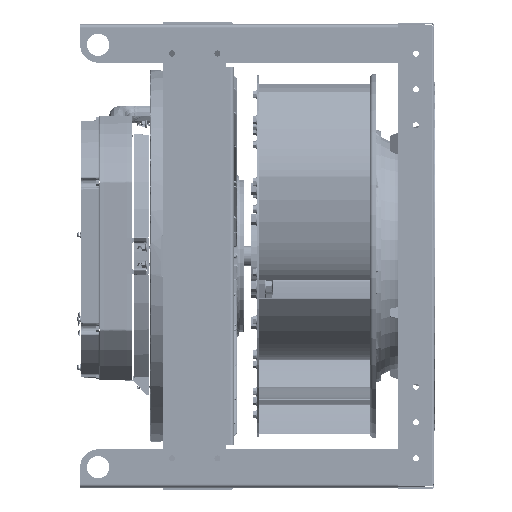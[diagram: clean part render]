
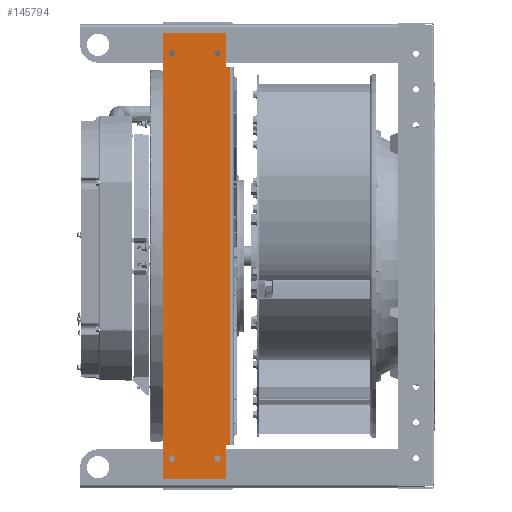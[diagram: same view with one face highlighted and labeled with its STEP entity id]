
A CAD part, front view. The second image highlights one B-rep face of the part: STEP entity #145794.
In plain terms, the highlighted planar face has unit normal (0, -1, 0) as drawn and (0, 0, 1) by its records, which use the part's own axes.
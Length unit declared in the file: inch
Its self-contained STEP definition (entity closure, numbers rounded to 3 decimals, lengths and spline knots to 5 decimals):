
#2562 = CARTESIAN_POINT ( 'NONE',  ( 11.133, 1.27, 0.135 ) ) ;
#3270 = LINE ( 'NONE', #66700, #276625 ) ;
#6082 = LINE ( 'NONE', #145164, #137164 ) ;
#12706 = DIRECTION ( 'NONE',  ( 0., 0., -1. ) ) ;
#13486 = LINE ( 'NONE', #55773, #209835 ) ;
#17407 = CARTESIAN_POINT ( 'NONE',  ( -10.555, 1.9775, 0.135 ) ) ;
#18080 = EDGE_CURVE ( 'NONE', #93705, #128996, #34319, .T. ) ;
#22707 = EDGE_CURVE ( 'NONE', #25084, #25084, #193006, .T. ) ;
#25084 = VERTEX_POINT ( 'NONE', #2562 ) ;
#28217 = LINE ( 'NONE', #114239, #203977 ) ;
#28342 = CARTESIAN_POINT ( 'NONE',  ( 11.305, 1.27, 0.135 ) ) ;
#33001 = CARTESIAN_POINT ( 'NONE',  ( 10.555, 1.9775, 0.135 ) ) ;
#34319 = LINE ( 'NONE', #209117, #82330 ) ;
#36202 = VERTEX_POINT ( 'NONE', #54605 ) ;
#37891 = DIRECTION ( 'NONE',  ( -1., 0., 0. ) ) ;
#38009 = FACE_BOUND ( 'NONE', #213721, .T. ) ;
#38515 = ORIENTED_EDGE ( 'NONE', *, *, #22707, .F. ) ;
#38545 = EDGE_CURVE ( 'NONE', #128996, #103102, #28217, .T. ) ;
#38642 = CARTESIAN_POINT ( 'NONE',  ( -11.133, 1.27, 0.135 ) ) ;
#40407 = CARTESIAN_POINT ( 'NONE',  ( 11.477, -1.27, 0.135 ) ) ;
#41969 = ORIENTED_EDGE ( 'NONE', *, *, #156323, .T. ) ;
#45808 = AXIS2_PLACEMENT_3D ( 'NONE', #54996, #12706, #98694 ) ;
#54434 = ORIENTED_EDGE ( 'NONE', *, *, #166230, .F. ) ;
#54605 = CARTESIAN_POINT ( 'NONE',  ( -11.477, -1.27, 0.135 ) ) ;
#54996 = CARTESIAN_POINT ( 'NONE',  ( 0., 0., 0.135 ) ) ;
#55661 = AXIS2_PLACEMENT_3D ( 'NONE', #228367, #212815, #233939 ) ;
#55773 = CARTESIAN_POINT ( 'NONE',  ( 10.555, 1.9775, 0.135 ) ) ;
#56484 = EDGE_CURVE ( 'NONE', #80580, #93705, #6082, .T. ) ;
#66700 = CARTESIAN_POINT ( 'NONE',  ( -10.555, 1.9775, 0.135 ) ) ;
#70749 = VERTEX_POINT ( 'NONE', #181387 ) ;
#77534 = FACE_BOUND ( 'NONE', #244206, .T. ) ;
#80580 = VERTEX_POINT ( 'NONE', #129657 ) ;
#82330 = VECTOR ( 'NONE', #138794, 39.37008 ) ;
#82532 = AXIS2_PLACEMENT_3D ( 'NONE', #183929, #143016, #231726 ) ;
#87519 = VERTEX_POINT ( 'NONE', #17407 ) ;
#89930 = LINE ( 'NONE', #175996, #138782 ) ;
#93705 = VERTEX_POINT ( 'NONE', #231151 ) ;
#94100 = DIRECTION ( 'NONE',  ( -1., 0., 0. ) ) ;
#95303 = VECTOR ( 'NONE', #175206, 39.37008 ) ;
#97220 = CARTESIAN_POINT ( 'NONE',  ( -12.465, 1.77, 0.135 ) ) ;
#98694 = DIRECTION ( 'NONE',  ( -1., 0., 0. ) ) ;
#102425 = VECTOR ( 'NONE', #37891, 39.37008 ) ;
#103102 = VERTEX_POINT ( 'NONE', #137897 ) ;
#104831 = ORIENTED_EDGE ( 'NONE', *, *, #171806, .F. ) ;
#110662 = CIRCLE ( 'NONE', #232382, 0.172 ) ;
#111607 = EDGE_CURVE ( 'NONE', #244579, #87519, #89930, .T. ) ;
#114239 = CARTESIAN_POINT ( 'NONE',  ( -12.465, 1.77, 0.135 ) ) ;
#115635 = EDGE_LOOP ( 'NONE', ( #202199 ) ) ;
#121247 = PLANE ( 'NONE',  #45808 ) ;
#126218 = DIRECTION ( 'NONE',  ( 0., -1., 0. ) ) ;
#128996 = VERTEX_POINT ( 'NONE', #244569 ) ;
#129657 = CARTESIAN_POINT ( 'NONE',  ( -12.465, -1.77, 0.135 ) ) ;
#129813 = ORIENTED_EDGE ( 'NONE', *, *, #245853, .T. ) ;
#137164 = VECTOR ( 'NONE', #156965, 39.37008 ) ;
#137897 = CARTESIAN_POINT ( 'NONE',  ( 10.555, 1.77, 0.135 ) ) ;
#138782 = VECTOR ( 'NONE', #94100, 39.37008 ) ;
#138794 = DIRECTION ( 'NONE',  ( 0., 1., 0. ) ) ;
#140096 = DIRECTION ( 'NONE',  ( 1., 0., 0. ) ) ;
#141281 = CIRCLE ( 'NONE', #55661, 0.172 ) ;
#143016 = DIRECTION ( 'NONE',  ( 0., 0., 1. ) ) ;
#145164 = CARTESIAN_POINT ( 'NONE',  ( -12.465, -1.77, 0.135 ) ) ;
#145794 = ADVANCED_FACE ( 'NONE', ( #248139, #231160, #228378, #38009, #77534 ), #121247, .F. ) ;
#154052 = LINE ( 'NONE', #201866, #95303 ) ;
#156323 = EDGE_CURVE ( 'NONE', #87519, #178052, #3270, .T. ) ;
#156580 = DIRECTION ( 'NONE',  ( -1., 0., 0. ) ) ;
#156965 = DIRECTION ( 'NONE',  ( 1., 0., 0. ) ) ;
#165994 = EDGE_LOOP ( 'NONE', ( #54434 ) ) ;
#166230 = EDGE_CURVE ( 'NONE', #178477, #178477, #141281, .T. ) ;
#171806 = EDGE_CURVE ( 'NONE', #244579, #103102, #13486, .T. ) ;
#175206 = DIRECTION ( 'NONE',  ( 0., -1., 0. ) ) ;
#175996 = CARTESIAN_POINT ( 'NONE',  ( 10.555, 1.9775, 0.135 ) ) ;
#178052 = VERTEX_POINT ( 'NONE', #211476 ) ;
#178477 = VERTEX_POINT ( 'NONE', #38642 ) ;
#181387 = CARTESIAN_POINT ( 'NONE',  ( -12.465, 1.77, 0.135 ) ) ;
#183929 = CARTESIAN_POINT ( 'NONE',  ( -11.305, -1.27, 0.135 ) ) ;
#188803 = LINE ( 'NONE', #97220, #102425 ) ;
#192706 = VERTEX_POINT ( 'NONE', #40407 ) ;
#193006 = CIRCLE ( 'NONE', #260574, 0.172 ) ;
#195326 = ORIENTED_EDGE ( 'NONE', *, *, #38545, .T. ) ;
#197370 = EDGE_CURVE ( 'NONE', #178052, #70749, #188803, .T. ) ;
#201866 = CARTESIAN_POINT ( 'NONE',  ( -12.465, -1.77, 0.135 ) ) ;
#202199 = ORIENTED_EDGE ( 'NONE', *, *, #215198, .F. ) ;
#203977 = VECTOR ( 'NONE', #156580, 39.37008 ) ;
#204934 = DIRECTION ( 'NONE',  ( 0., 0., 1. ) ) ;
#206303 = CARTESIAN_POINT ( 'NONE',  ( 11.305, -1.27, 0.135 ) ) ;
#209117 = CARTESIAN_POINT ( 'NONE',  ( 12.465, -1.77, 0.135 ) ) ;
#209835 = VECTOR ( 'NONE', #126218, 39.37008 ) ;
#211476 = CARTESIAN_POINT ( 'NONE',  ( -10.555, 1.77, 0.135 ) ) ;
#212815 = DIRECTION ( 'NONE',  ( 0., 0., 1. ) ) ;
#213721 = EDGE_LOOP ( 'NONE', ( #224943 ) ) ;
#215198 = EDGE_CURVE ( 'NONE', #36202, #36202, #226658, .T. ) ;
#224256 = DIRECTION ( 'NONE',  ( -1., 0., 0. ) ) ;
#224943 = ORIENTED_EDGE ( 'NONE', *, *, #228424, .F. ) ;
#225635 = DIRECTION ( 'NONE',  ( 0., 0., 1. ) ) ;
#226449 = EDGE_LOOP ( 'NONE', ( #129813, #255017, #259471, #195326, #104831, #265451, #41969, #231536 ) ) ;
#226658 = CIRCLE ( 'NONE', #82532, 0.172 ) ;
#228367 = CARTESIAN_POINT ( 'NONE',  ( -11.305, 1.27, 0.135 ) ) ;
#228378 = FACE_BOUND ( 'NONE', #165994, .T. ) ;
#228424 = EDGE_CURVE ( 'NONE', #192706, #192706, #110662, .T. ) ;
#231151 = CARTESIAN_POINT ( 'NONE',  ( 12.465, -1.77, 0.135 ) ) ;
#231160 = FACE_BOUND ( 'NONE', #115635, .T. ) ;
#231536 = ORIENTED_EDGE ( 'NONE', *, *, #197370, .T. ) ;
#231726 = DIRECTION ( 'NONE',  ( -1., 0., 0. ) ) ;
#232382 = AXIS2_PLACEMENT_3D ( 'NONE', #206303, #204934, #140096 ) ;
#233939 = DIRECTION ( 'NONE',  ( 1., 0., 0. ) ) ;
#241491 = DIRECTION ( 'NONE',  ( 0., -1., 0. ) ) ;
#244206 = EDGE_LOOP ( 'NONE', ( #38515 ) ) ;
#244569 = CARTESIAN_POINT ( 'NONE',  ( 12.465, 1.77, 0.135 ) ) ;
#244579 = VERTEX_POINT ( 'NONE', #33001 ) ;
#245853 = EDGE_CURVE ( 'NONE', #70749, #80580, #154052, .T. ) ;
#248139 = FACE_OUTER_BOUND ( 'NONE', #226449, .T. ) ;
#255017 = ORIENTED_EDGE ( 'NONE', *, *, #56484, .T. ) ;
#259471 = ORIENTED_EDGE ( 'NONE', *, *, #18080, .T. ) ;
#260574 = AXIS2_PLACEMENT_3D ( 'NONE', #28342, #225635, #224256 ) ;
#265451 = ORIENTED_EDGE ( 'NONE', *, *, #111607, .T. ) ;
#276625 = VECTOR ( 'NONE', #241491, 39.37008 ) ;
